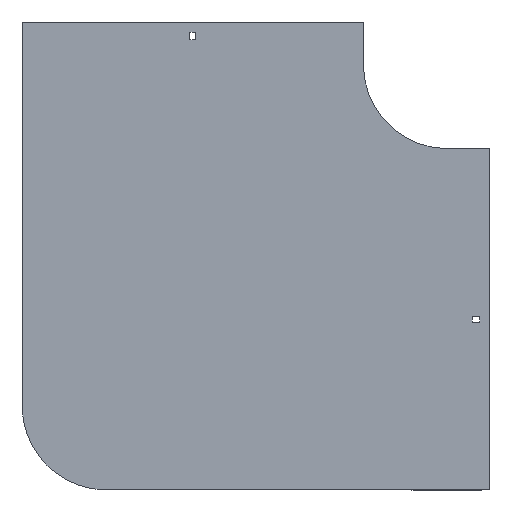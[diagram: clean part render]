
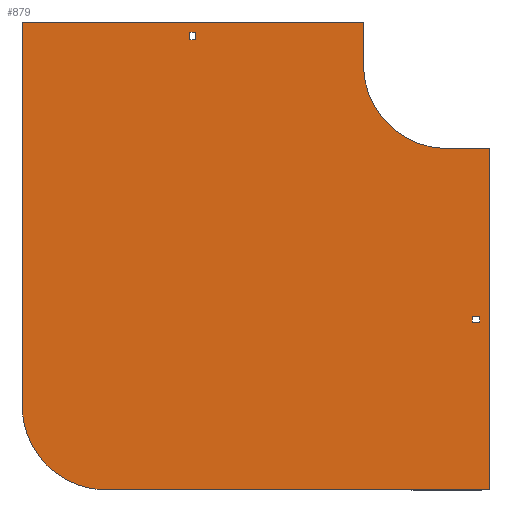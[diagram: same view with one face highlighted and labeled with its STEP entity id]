
A CAD part, front view. The second image highlights one B-rep face of the part: STEP entity #879.
In plain terms, the highlighted planar face has unit normal (0, -1, 0).
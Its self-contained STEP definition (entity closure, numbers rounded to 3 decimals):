
#8 = FACE_OUTER_BOUND ( 'NONE', #1364, .T. ) ;
#21 = VECTOR ( 'NONE', #861, 1000. ) ;
#28 = CARTESIAN_POINT ( 'NONE',  ( -305.25, 0., 29. ) ) ;
#42 = CARTESIAN_POINT ( 'NONE',  ( 0., 0., 0. ) ) ;
#54 = EDGE_CURVE ( 'NONE', #603, #1108, #1254, .T. ) ;
#76 = EDGE_CURVE ( 'NONE', #154, #1698, #1709, .T. ) ;
#80 = CARTESIAN_POINT ( 'NONE',  ( -404., 0., -404. ) ) ;
#92 = ORIENTED_EDGE ( 'NONE', *, *, #76, .F. ) ;
#98 = LINE ( 'NONE', #276, #1237 ) ;
#121 = CARTESIAN_POINT ( 'NONE',  ( -504., 0., 50. ) ) ;
#123 = LINE ( 'NONE', #262, #1763 ) ;
#150 = VECTOR ( 'NONE', #662, 1000. ) ;
#154 = VERTEX_POINT ( 'NONE', #1765 ) ;
#155 = ORIENTED_EDGE ( 'NONE', *, *, #1590, .T. ) ;
#167 = CARTESIAN_POINT ( 'NONE',  ( -298.75, 0., 38. ) ) ;
#176 = LINE ( 'NONE', #1058, #670 ) ;
#184 = VERTEX_POINT ( 'NONE', #1336 ) ;
#188 = VERTEX_POINT ( 'NONE', #584 ) ;
#218 = CARTESIAN_POINT ( 'NONE',  ( 38., 0., -298.75 ) ) ;
#222 = VERTEX_POINT ( 'NONE', #1905 ) ;
#226 = VERTEX_POINT ( 'NONE', #1474 ) ;
#246 = ORIENTED_EDGE ( 'NONE', *, *, #639, .F. ) ;
#262 = CARTESIAN_POINT ( 'NONE',  ( 50., 0., -100. ) ) ;
#276 = CARTESIAN_POINT ( 'NONE',  ( 0., 0., -100. ) ) ;
#285 = EDGE_CURVE ( 'NONE', #222, #1297, #1580, .T. ) ;
#296 = CARTESIAN_POINT ( 'NONE',  ( 29., 0., -305.25 ) ) ;
#310 = ORIENTED_EDGE ( 'NONE', *, *, #1824, .F. ) ;
#326 = VECTOR ( 'NONE', #1535, 1000. ) ;
#342 = PLANE ( 'NONE',  #681 ) ;
#348 = VERTEX_POINT ( 'NONE', #28 ) ;
#355 = ORIENTED_EDGE ( 'NONE', *, *, #54, .T. ) ;
#364 = VERTEX_POINT ( 'NONE', #375 ) ;
#372 = DIRECTION ( 'NONE',  ( 0., 0., -1. ) ) ;
#375 = CARTESIAN_POINT ( 'NONE',  ( 50., 0., -504. ) ) ;
#392 = VERTEX_POINT ( 'NONE', #218 ) ;
#395 = VECTOR ( 'NONE', #1031, 1000. ) ;
#412 = DIRECTION ( 'NONE',  ( 0., 0., 1. ) ) ;
#419 = DIRECTION ( 'NONE',  ( 0., 0., 1. ) ) ;
#451 = LINE ( 'NONE', #121, #1190 ) ;
#453 = LINE ( 'NONE', #615, #509 ) ;
#495 = FACE_BOUND ( 'NONE', #1217, .T. ) ;
#503 = ORIENTED_EDGE ( 'NONE', *, *, #1083, .F. ) ;
#507 = EDGE_CURVE ( 'NONE', #1256, #392, #1614, .T. ) ;
#509 = VECTOR ( 'NONE', #753, 1000. ) ;
#551 = AXIS2_PLACEMENT_3D ( 'NONE', #80, #659, #1423 ) ;
#584 = CARTESIAN_POINT ( 'NONE',  ( 29., 0., -305.25 ) ) ;
#603 = VERTEX_POINT ( 'NONE', #1722 ) ;
#615 = CARTESIAN_POINT ( 'NONE',  ( -305.25, 0., 29. ) ) ;
#616 = CARTESIAN_POINT ( 'NONE',  ( 0., 0., 0. ) ) ;
#639 = EDGE_CURVE ( 'NONE', #188, #1256, #1617, .T. ) ;
#659 = DIRECTION ( 'NONE',  ( 0., 1., 0. ) ) ;
#661 = CARTESIAN_POINT ( 'NONE',  ( 38., 0., -305.25 ) ) ;
#662 = DIRECTION ( 'NONE',  ( -1., 0., 0. ) ) ;
#670 = VECTOR ( 'NONE', #1344, 1000. ) ;
#679 = VECTOR ( 'NONE', #1629, 1000. ) ;
#681 = AXIS2_PLACEMENT_3D ( 'NONE', #616, #1214, #797 ) ;
#694 = EDGE_CURVE ( 'NONE', #184, #188, #1640, .T. ) ;
#725 = CARTESIAN_POINT ( 'NONE',  ( -298.75, 0., 29. ) ) ;
#731 = DIRECTION ( 'NONE',  ( 1., 0., 0. ) ) ;
#753 = DIRECTION ( 'NONE',  ( 0., 0., 1. ) ) ;
#797 = DIRECTION ( 'NONE',  ( 0., 0., -1. ) ) ;
#798 = ORIENTED_EDGE ( 'NONE', *, *, #694, .F. ) ;
#858 = VECTOR ( 'NONE', #419, 1000. ) ;
#861 = DIRECTION ( 'NONE',  ( 0., 0., -1. ) ) ;
#865 = LINE ( 'NONE', #1754, #858 ) ;
#869 = DIRECTION ( 'NONE',  ( 0., 0., -1. ) ) ;
#876 = CARTESIAN_POINT ( 'NONE',  ( 38., 0., -305.25 ) ) ;
#877 = EDGE_CURVE ( 'NONE', #364, #154, #1357, .T. ) ;
#879 = ADVANCED_FACE ( 'NONE', ( #495, #8, #1684 ), #342, .T. ) ;
#896 = CARTESIAN_POINT ( 'NONE',  ( 29., 0., -305.25 ) ) ;
#918 = VERTEX_POINT ( 'NONE', #1877 ) ;
#925 = VECTOR ( 'NONE', #969, 1000. ) ;
#969 = DIRECTION ( 'NONE',  ( 1., 0., 0. ) ) ;
#1031 = DIRECTION ( 'NONE',  ( 1., 0., 0. ) ) ;
#1058 = CARTESIAN_POINT ( 'NONE',  ( -100., 0., 50. ) ) ;
#1072 = EDGE_CURVE ( 'NONE', #1297, #1150, #98, .T. ) ;
#1083 = EDGE_CURVE ( 'NONE', #1150, #364, #123, .T. ) ;
#1093 = ORIENTED_EDGE ( 'NONE', *, *, #1506, .F. ) ;
#1096 = DIRECTION ( 'NONE',  ( -1., 0., 0. ) ) ;
#1102 = ORIENTED_EDGE ( 'NONE', *, *, #1545, .F. ) ;
#1108 = VERTEX_POINT ( 'NONE', #167 ) ;
#1150 = VERTEX_POINT ( 'NONE', #1222 ) ;
#1153 = DIRECTION ( 'NONE',  ( 1., 0., 0. ) ) ;
#1176 = ORIENTED_EDGE ( 'NONE', *, *, #507, .F. ) ;
#1179 = CARTESIAN_POINT ( 'NONE',  ( -100., 0., 50. ) ) ;
#1190 = VECTOR ( 'NONE', #731, 1000. ) ;
#1214 = DIRECTION ( 'NONE',  ( 0., -1., 0. ) ) ;
#1216 = EDGE_LOOP ( 'NONE', ( #1176, #246, #798, #310 ) ) ;
#1217 = EDGE_LOOP ( 'NONE', ( #1553, #355, #1926, #155 ) ) ;
#1222 = CARTESIAN_POINT ( 'NONE',  ( 50., 0., -100. ) ) ;
#1229 = CARTESIAN_POINT ( 'NONE',  ( -305.25, 0., 29. ) ) ;
#1237 = VECTOR ( 'NONE', #1153, 1000. ) ;
#1240 = ORIENTED_EDGE ( 'NONE', *, *, #877, .F. ) ;
#1254 = LINE ( 'NONE', #1724, #925 ) ;
#1256 = VERTEX_POINT ( 'NONE', #661 ) ;
#1271 = CARTESIAN_POINT ( 'NONE',  ( 29., 0., -298.75 ) ) ;
#1297 = VERTEX_POINT ( 'NONE', #1853 ) ;
#1336 = CARTESIAN_POINT ( 'NONE',  ( 29., 0., -298.75 ) ) ;
#1343 = ORIENTED_EDGE ( 'NONE', *, *, #1072, .F. ) ;
#1344 = DIRECTION ( 'NONE',  ( 0., 0., -1. ) ) ;
#1357 = LINE ( 'NONE', #1835, #326 ) ;
#1364 = EDGE_LOOP ( 'NONE', ( #1102, #1768, #92, #1240, #503, #1343, #1897, #1093 ) ) ;
#1388 = LINE ( 'NONE', #1271, #150 ) ;
#1423 = DIRECTION ( 'NONE',  ( 0., 0., 1. ) ) ;
#1434 = EDGE_CURVE ( 'NONE', #1698, #226, #865, .T. ) ;
#1446 = CARTESIAN_POINT ( 'NONE',  ( -504., 0., -404. ) ) ;
#1448 = VECTOR ( 'NONE', #1096, 1000. ) ;
#1474 = CARTESIAN_POINT ( 'NONE',  ( -504., 0., 50. ) ) ;
#1506 = EDGE_CURVE ( 'NONE', #1679, #222, #176, .T. ) ;
#1535 = DIRECTION ( 'NONE',  ( -1., 0., 0. ) ) ;
#1545 = EDGE_CURVE ( 'NONE', #226, #1679, #451, .T. ) ;
#1553 = ORIENTED_EDGE ( 'NONE', *, *, #1758, .T. ) ;
#1580 = CIRCLE ( 'NONE', #1836, 100. ) ;
#1590 = EDGE_CURVE ( 'NONE', #918, #348, #1714, .T. ) ;
#1614 = LINE ( 'NONE', #876, #1642 ) ;
#1617 = LINE ( 'NONE', #296, #395 ) ;
#1629 = DIRECTION ( 'NONE',  ( 0., 0., -1. ) ) ;
#1640 = LINE ( 'NONE', #896, #679 ) ;
#1642 = VECTOR ( 'NONE', #412, 1000. ) ;
#1677 = EDGE_CURVE ( 'NONE', #1108, #918, #1929, .T. ) ;
#1679 = VERTEX_POINT ( 'NONE', #1179 ) ;
#1684 = FACE_BOUND ( 'NONE', #1216, .T. ) ;
#1698 = VERTEX_POINT ( 'NONE', #1446 ) ;
#1709 = CIRCLE ( 'NONE', #551, 100. ) ;
#1714 = LINE ( 'NONE', #1229, #1448 ) ;
#1722 = CARTESIAN_POINT ( 'NONE',  ( -305.25, 0., 38. ) ) ;
#1724 = CARTESIAN_POINT ( 'NONE',  ( -305.25, 0., 38. ) ) ;
#1728 = DIRECTION ( 'NONE',  ( 0., -1., 0. ) ) ;
#1754 = CARTESIAN_POINT ( 'NONE',  ( -504., 0., -404. ) ) ;
#1758 = EDGE_CURVE ( 'NONE', #348, #603, #453, .T. ) ;
#1763 = VECTOR ( 'NONE', #869, 1000. ) ;
#1765 = CARTESIAN_POINT ( 'NONE',  ( -404., 0., -504. ) ) ;
#1768 = ORIENTED_EDGE ( 'NONE', *, *, #1434, .F. ) ;
#1824 = EDGE_CURVE ( 'NONE', #392, #184, #1388, .T. ) ;
#1835 = CARTESIAN_POINT ( 'NONE',  ( 50., 0., -504. ) ) ;
#1836 = AXIS2_PLACEMENT_3D ( 'NONE', #42, #1728, #372 ) ;
#1853 = CARTESIAN_POINT ( 'NONE',  ( 0., 0., -100. ) ) ;
#1877 = CARTESIAN_POINT ( 'NONE',  ( -298.75, 0., 29. ) ) ;
#1897 = ORIENTED_EDGE ( 'NONE', *, *, #285, .F. ) ;
#1905 = CARTESIAN_POINT ( 'NONE',  ( -100., 0., 0. ) ) ;
#1926 = ORIENTED_EDGE ( 'NONE', *, *, #1677, .T. ) ;
#1929 = LINE ( 'NONE', #725, #21 ) ;
